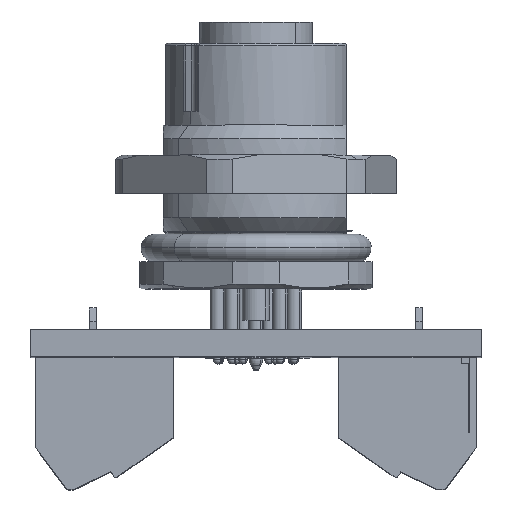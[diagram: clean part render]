
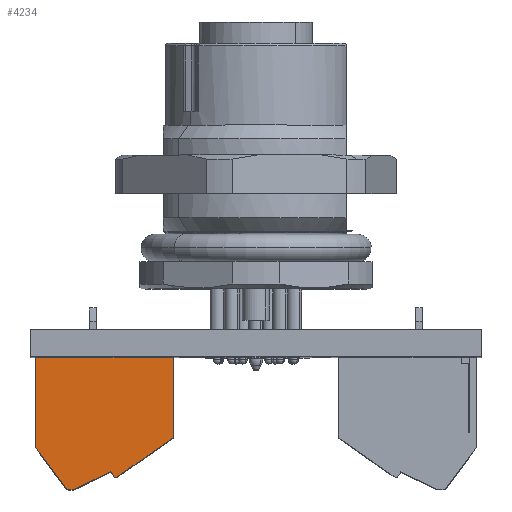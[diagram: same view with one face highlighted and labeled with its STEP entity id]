
A CAD part, top view. The second image highlights one B-rep face of the part: STEP entity #4234.
In plain terms, the highlighted planar face has unit normal (0, 0, 1) as drawn and (0, -1, 0) by its records, which use the part's own axes.
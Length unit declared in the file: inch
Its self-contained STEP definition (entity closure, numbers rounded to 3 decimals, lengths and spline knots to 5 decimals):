
#910 = ORIENTED_EDGE ( 'NONE', *, *, #138414, .F. ) ;
#2528 = CARTESIAN_POINT ( 'NONE',  ( -0.39764, -0.41339, 0. ) ) ;
#2767 = VERTEX_POINT ( 'NONE', #2528 ) ;
#3936 = DIRECTION ( 'NONE',  ( 1., 0., 0. ) ) ;
#4234 = ADVANCED_FACE ( 'NONE', ( #101892 ), #25553, .F. ) ;
#7257 = DIRECTION ( 'NONE',  ( 0., 1., 0. ) ) ;
#7498 = DIRECTION ( 'NONE',  ( 0.43, 0., -0.903 ) ) ;
#10002 = CIRCLE ( 'NONE', #107147, 0.01181 ) ;
#11215 = ORIENTED_EDGE ( 'NONE', *, *, #114322, .T. ) ;
#13716 = DIRECTION ( 'NONE',  ( 0., 1., 0. ) ) ;
#13859 = VERTEX_POINT ( 'NONE', #103354 ) ;
#13919 = DIRECTION ( 'NONE',  ( -0.819, 0., -0.574 ) ) ;
#18362 = LINE ( 'NONE', #23742, #55441 ) ;
#18538 = DIRECTION ( 'NONE',  ( 0., 0., -1. ) ) ;
#19726 = VERTEX_POINT ( 'NONE', #86269 ) ;
#20000 = EDGE_CURVE ( 'NONE', #13859, #141153, #106044, .T. ) ;
#21316 = LINE ( 'NONE', #46902, #54852 ) ;
#21727 = ORIENTED_EDGE ( 'NONE', *, *, #20000, .T. ) ;
#23742 = CARTESIAN_POINT ( 'NONE',  ( -0.39764, -0.41339, 0. ) ) ;
#25553 = PLANE ( 'NONE',  #38575 ) ;
#26657 = CARTESIAN_POINT ( 'NONE',  ( -0.16939, -0.41339, -0.34646 ) ) ;
#27154 = DIRECTION ( 'NONE',  ( 1., 0., 0. ) ) ;
#29652 = LINE ( 'NONE', #114953, #59677 ) ;
#29756 = CARTESIAN_POINT ( 'NONE',  ( -0.16306, -0.41339, -0.34646 ) ) ;
#30026 = CARTESIAN_POINT ( 'NONE',  ( -0.28401, -0.41339, -0.38074 ) ) ;
#30215 = VECTOR ( 'NONE', #57939, 39.37008 ) ;
#30653 = CARTESIAN_POINT ( 'NONE',  ( -0.28909, -0.41339, -0.37008 ) ) ;
#32315 = DIRECTION ( 'NONE',  ( -0.574, 0., 0.819 ) ) ;
#32353 = CARTESIAN_POINT ( 'NONE',  ( -0.28909, -0.41339, -0.38189 ) ) ;
#34018 = ORIENTED_EDGE ( 'NONE', *, *, #92343, .T. ) ;
#35561 = VECTOR ( 'NONE', #122760, 39.37008 ) ;
#37400 = EDGE_CURVE ( 'NONE', #69008, #89865, #29652, .T. ) ;
#37523 = CARTESIAN_POINT ( 'NONE',  ( 0., -0.41339, 0. ) ) ;
#37974 = VERTEX_POINT ( 'NONE', #59146 ) ;
#38575 = AXIS2_PLACEMENT_3D ( 'NONE', #60075, #13716, #3936 ) ;
#42655 = EDGE_CURVE ( 'NONE', #84409, #2767, #112314, .T. ) ;
#43085 = CARTESIAN_POINT ( 'NONE',  ( -0.16939, -0.41339, -0.34646 ) ) ;
#46603 = CARTESIAN_POINT ( 'NONE',  ( -0.30154, -0.41339, -0.38189 ) ) ;
#46630 = EDGE_CURVE ( 'NONE', #110633, #19726, #81637, .T. ) ;
#46902 = CARTESIAN_POINT ( 'NONE',  ( -0.18006, -0.41339, -0.33122 ) ) ;
#49210 = ORIENTED_EDGE ( 'NONE', *, *, #52240, .F. ) ;
#50992 = AXIS2_PLACEMENT_3D ( 'NONE', #87055, #7257, #18538 ) ;
#52240 = EDGE_CURVE ( 'NONE', #19726, #68229, #21316, .T. ) ;
#53140 = LINE ( 'NONE', #122568, #100837 ) ;
#54105 = CARTESIAN_POINT ( 'NONE',  ( 0., -0.41339, 0. ) ) ;
#54852 = VECTOR ( 'NONE', #93231, 39.37008 ) ;
#55441 = VECTOR ( 'NONE', #80445, 39.37008 ) ;
#57939 = DIRECTION ( 'NONE',  ( 1., 0., 0. ) ) ;
#59146 = CARTESIAN_POINT ( 'NONE',  ( -0.31102, -0.41339, -0.37713 ) ) ;
#59677 = VECTOR ( 'NONE', #13919, 39.37008 ) ;
#60075 = CARTESIAN_POINT ( 'NONE',  ( -0.19882, -0.41339, -0.19095 ) ) ;
#66763 = ORIENTED_EDGE ( 'NONE', *, *, #46630, .F. ) ;
#68229 = VERTEX_POINT ( 'NONE', #30026 ) ;
#69008 = VERTEX_POINT ( 'NONE', #82029 ) ;
#71171 = EDGE_CURVE ( 'NONE', #13859, #37974, #142930, .T. ) ;
#78142 = EDGE_CURVE ( 'NONE', #68229, #141153, #10002, .T. ) ;
#80445 = DIRECTION ( 'NONE',  ( 0., 0., -1. ) ) ;
#81637 = LINE ( 'NONE', #96480, #86992 ) ;
#82029 = CARTESIAN_POINT ( 'NONE',  ( 0., -0.41339, -0.23228 ) ) ;
#84409 = VERTEX_POINT ( 'NONE', #37523 ) ;
#86269 = CARTESIAN_POINT ( 'NONE',  ( -0.18006, -0.41339, -0.33122 ) ) ;
#86335 = VERTEX_POINT ( 'NONE', #101850 ) ;
#86992 = VECTOR ( 'NONE', #32315, 39.37008 ) ;
#87055 = CARTESIAN_POINT ( 'NONE',  ( -0.30154, -0.41339, -0.37008 ) ) ;
#89865 = VERTEX_POINT ( 'NONE', #29756 ) ;
#92343 = EDGE_CURVE ( 'NONE', #110633, #89865, #104431, .T. ) ;
#93231 = DIRECTION ( 'NONE',  ( -0.903, 0., -0.43 ) ) ;
#96480 = CARTESIAN_POINT ( 'NONE',  ( -0.16939, -0.41339, -0.34646 ) ) ;
#98340 = CARTESIAN_POINT ( 'NONE',  ( -0.31102, -0.41339, -0.37713 ) ) ;
#99069 = VECTOR ( 'NONE', #27154, 39.37008 ) ;
#100837 = VECTOR ( 'NONE', #123053, 39.37008 ) ;
#101850 = CARTESIAN_POINT ( 'NONE',  ( -0.39764, -0.41339, -0.26063 ) ) ;
#101892 = FACE_OUTER_BOUND ( 'NONE', #120908, .T. ) ;
#103354 = CARTESIAN_POINT ( 'NONE',  ( -0.30154, -0.41339, -0.38189 ) ) ;
#104285 = ORIENTED_EDGE ( 'NONE', *, *, #37400, .F. ) ;
#104431 = LINE ( 'NONE', #26657, #99069 ) ;
#106044 = LINE ( 'NONE', #46603, #30215 ) ;
#107099 = VECTOR ( 'NONE', #144051, 39.37008 ) ;
#107147 = AXIS2_PLACEMENT_3D ( 'NONE', #30653, #109471, #7498 ) ;
#109471 = DIRECTION ( 'NONE',  ( 0., 1., 0. ) ) ;
#110633 = VERTEX_POINT ( 'NONE', #43085 ) ;
#112314 = LINE ( 'NONE', #54105, #107099 ) ;
#114322 = EDGE_CURVE ( 'NONE', #2767, #86335, #18362, .T. ) ;
#114864 = ORIENTED_EDGE ( 'NONE', *, *, #42655, .T. ) ;
#114953 = CARTESIAN_POINT ( 'NONE',  ( 0., -0.41339, -0.23228 ) ) ;
#115689 = ORIENTED_EDGE ( 'NONE', *, *, #124886, .T. ) ;
#119370 = ORIENTED_EDGE ( 'NONE', *, *, #71171, .F. ) ;
#120908 = EDGE_LOOP ( 'NONE', ( #119370, #21727, #135840, #49210, #66763, #34018, #104285, #115689, #114864, #11215, #910 ) ) ;
#122568 = CARTESIAN_POINT ( 'NONE',  ( 0., -0.41339, -0.23228 ) ) ;
#122760 = DIRECTION ( 'NONE',  ( -0.597, 0., 0.802 ) ) ;
#123053 = DIRECTION ( 'NONE',  ( 0., 0., 1. ) ) ;
#124886 = EDGE_CURVE ( 'NONE', #69008, #84409, #53140, .T. ) ;
#130580 = LINE ( 'NONE', #98340, #35561 ) ;
#135840 = ORIENTED_EDGE ( 'NONE', *, *, #78142, .F. ) ;
#138414 = EDGE_CURVE ( 'NONE', #37974, #86335, #130580, .T. ) ;
#141153 = VERTEX_POINT ( 'NONE', #32353 ) ;
#142930 = CIRCLE ( 'NONE', #50992, 0.01181 ) ;
#144051 = DIRECTION ( 'NONE',  ( -1., 0., 0. ) ) ;
